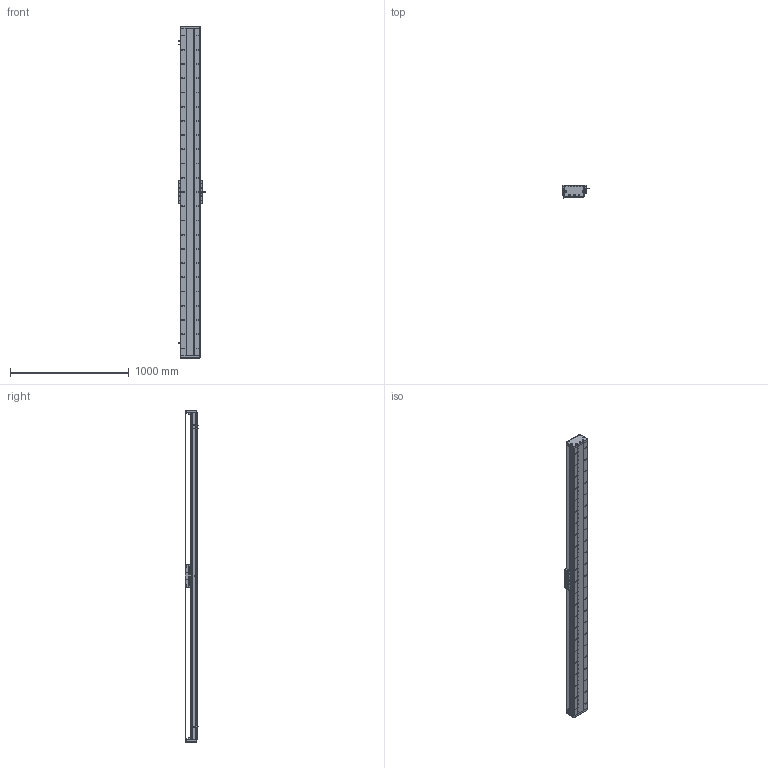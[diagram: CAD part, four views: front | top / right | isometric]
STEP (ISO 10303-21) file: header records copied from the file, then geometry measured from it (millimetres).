
FILE_DESCRIPTION (( 'STEP AP203' ), '1' );
FILE_NAME ('DA-C165-C2-T2520-C010-0.2 直线电机.STEP', '2023-05-11T07:49:18', ( '微软用户' ), ( '微软中国' ), 'SwSTEP 2.0', 'SolidWorks 2019', '' );
FILE_SCHEMA (( 'CONFIG_CONTROL_DESIGN' ));
Length unit declared in the file: millimetre
Products named in the file (18): DA-C165-C2-T2520-C010-0.2 眻盄萇儂; 复件 DA95-HXJ-00 缓冲橡胶^DA-C165-C2-T-C010-0.2-N 直线电机; 复件 DA165-GDYK-00 钢带压块^复件 CU165钢带组件_DA-C165-C2-T-C010-0.2-N 直线电机; 复件 DA165-GD-1860-002-00 钢带盖板^复件 CU165钢带组件_DA-C165-C2-T-C010-0.2-N 直线电机; 葩璃 CKM01-W075-TRL^DA-C165-C2-T-C010-0.2-N 眻盄萇儂; 复件 六角薄螺母 M3^DA-C165-C2-T-C010-0.2-N 直线电机_GB_FASTENER_NUT_STNAB M3-C; 复件 DA165-GDLK-00 钢带拉块^复件 CU165钢带组件_DA-C165-C2-T-C010-0.2-N 直线电机; 复件 DA165-GYP-00 光电感应片^DA-C165-C2-T-C010-0.2-N 直线电机; 珨极趙賑雄怢啣wf-C2; 复件 DA165-GD-DG-H-00 端盖^复件 CU165钢带组件_DA-C165-C2-T-C010-0.2-N 直线电机; IU-CU165-L 菁釱絳寢; 葩璃 PM-T45^DA-C165-C2-T-C010-0.2-N 眻盄萇儂; 复件 XD-U-02L 磁栅尺^DA-C165-C2-T-C010-0.2-N 直线电机_T; 复件 CU165钢带组件^DA-C165-C2-T-C010-0.2-N 直线电机; 复件 DMA-010-0.2 读数头^DA-C165-C2-T-C010-0.2-N 直线电机; 葩璃 DA95-GT-T-00^IU-CU165-L 菁釱絳寢_T; 复件 CKM02-W075-C1C2-TP-3.0 一体电机-C2^DA-C165-C2-T-C010-0.2-N 直线电机; IU-CU165-L-00 菁釱_L2760
Assembly tree (33 placements, depth 3):
  DA-C165-C2-T2520-C010-0.2 眻盄萇儂
    IU-CU165-L 菁釱絳寢
      IU-CU165-L-00 菁釱_L2760
      葩璃 DA95-GT-T-00^IU-CU165-L 菁釱絳寢_T  x4
    复件 XD-U-02L 磁栅尺^DA-C165-C2-T-C010-0.2-N 直线电机_T
    葩璃 PM-T45^DA-C165-C2-T-C010-0.2-N 眻盄萇儂  x3
    葩璃 CKM01-W075-TRL^DA-C165-C2-T-C010-0.2-N 眻盄萇儂
    复件 CU165钢带组件^DA-C165-C2-T-C010-0.2-N 直线电机
      复件 DA165-GD-DG-H-00 端盖^复件 CU165钢带组件_DA-C165-C2-T-C010-0.2-N 直线电机  x2
      复件 DA165-GDYK-00 钢带压块^复件 CU165钢带组件_DA-C165-C2-T-C010-0.2-N 直线电机  x2
      复件 DA165-GD-1860-002-00 钢带盖板^复件 CU165钢带组件_DA-C165-C2-T-C010-0.2-N 直线电机
      复件 DA165-GDLK-00 钢带拉块^复件 CU165钢带组件_DA-C165-C2-T-C010-0.2-N 直线电机  x2
    复件 DA95-HXJ-00 缓冲橡胶^DA-C165-C2-T-C010-0.2-N 直线电机  x4
    复件 DA165-GYP-00 光电感应片^DA-C165-C2-T-C010-0.2-N 直线电机
    复件 DMA-010-0.2 读数头^DA-C165-C2-T-C010-0.2-N 直线电机
    复件 CKM02-W075-C1C2-TP-3.0 一体电机-C2^DA-C165-C2-T-C010-0.2-N 直线电机
    复件 六角薄螺母 M3^DA-C165-C2-T-C010-0.2-N 直线电机_GB_FASTENER_NUT_STNAB M3-C  x6
    珨极趙賑雄怢啣wf-C2
Bounding box: 233 x 111.45 x 2800 mm (x, y, z)
Volume: 15439211.5 mm3; surface area: 4665875.5 mm2
Topology: 70 solids, 70 shells, 3967 faces, 11719 edges, 7499 vertices
Faces by surface type: cylinder 2381, plane 1106, cone 430, torus 46, sphere 4
Entity records: 135287 total; most frequent: CARTESIAN_POINT 36979, ORIENTED_EDGE 20610, DIRECTION 19737, EDGE_CURVE 10305, AXIS2_PLACEMENT_3D 7555, VERTEX_POINT 6735, EDGE_LOOP 4696, VECTOR 4627
